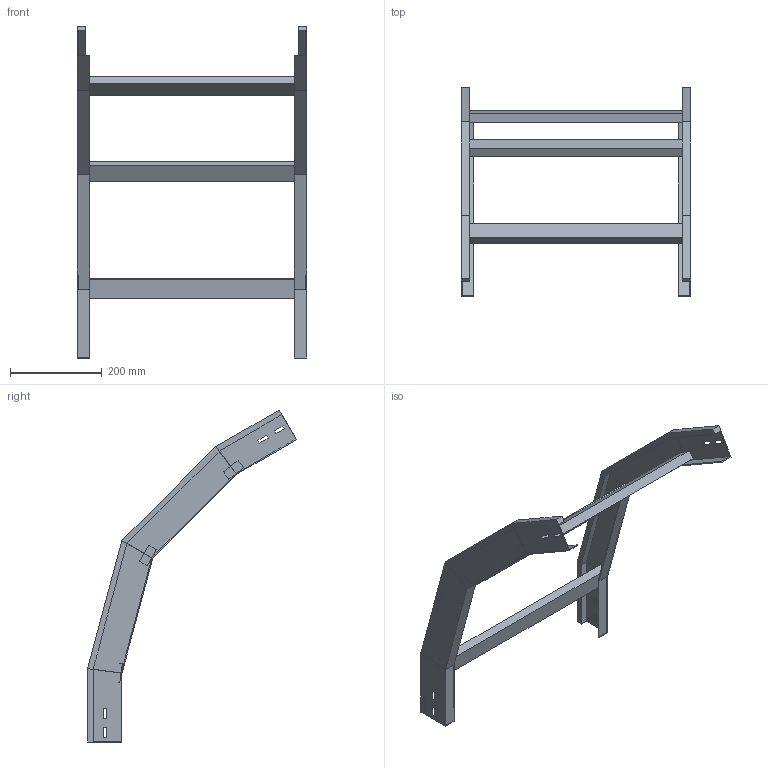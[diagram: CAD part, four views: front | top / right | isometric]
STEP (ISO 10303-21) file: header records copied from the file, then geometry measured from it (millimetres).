
FILE_DESCRIPTION (( 'STEP AP214' ), '1' );
FILE_NAME ('41B5C500.step', '2025-02-21T14:59:31', ( '' ), ( '' ), 'SwSTEP 2.0', 'SolidWorks 2023', '' );
FILE_SCHEMA (( 'AUTOMOTIVE_DESIGN' ));
Length unit declared in the file: millimetre
Products named in the file (3): 41B5C500; LONGH.DISCESA_60°_H75_R500; TRAVERSINO_500
Assembly tree (5 placements, depth 2):
  41B5C500
    LONGH.DISCESA_60°_H75_R500  x2
    TRAVERSINO_500  x3
Bounding box: 500 x 455.08 x 723.27 mm (x, y, z)
Volume: 1884339.7 mm3; surface area: 588106.3 mm2
Topology: 5 solids, 5 shells, 118 faces, 276 edges, 168 vertices
Faces by surface type: plane 118
Entity records: 1672 total; most frequent: CARTESIAN_POINT 276, ORIENTED_EDGE 264, DIRECTION 260, EDGE_CURVE 132, VECTOR 132, LINE 132, VERTEX_POINT 80, AXIS2_PLACEMENT_3D 64
